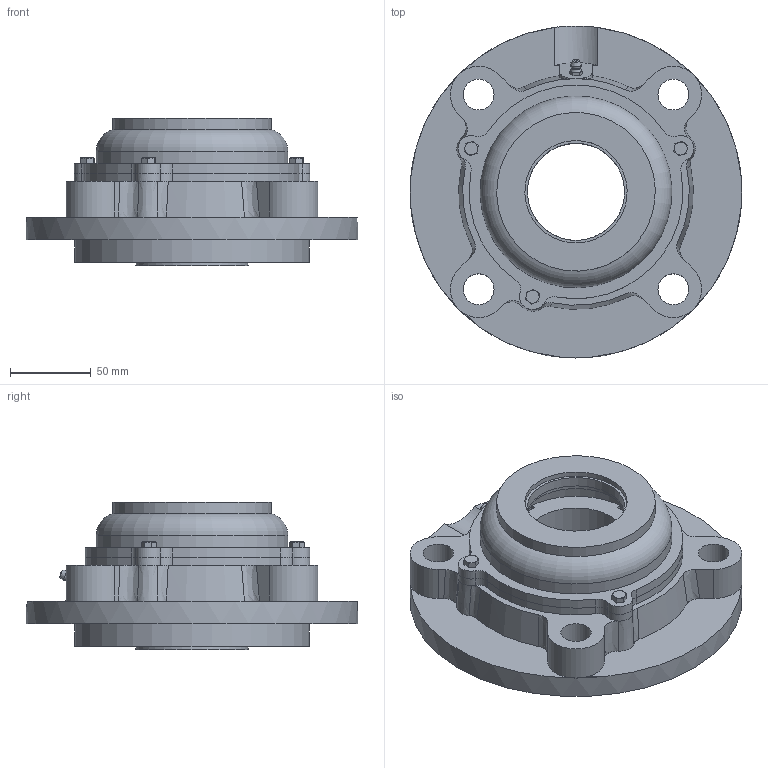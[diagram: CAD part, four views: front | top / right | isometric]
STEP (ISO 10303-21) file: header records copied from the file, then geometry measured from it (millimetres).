
FILE_DESCRIPTION((''),'2;1');
FILE_NAME('\\Ts-tgl068\j-cad-d-base\00.3DCADデータ作成フォルダ\02.フランジ形\CUKFC200\CUKFC213C+H.stp','2014-05-22T08:55:28',('btec_1106_2'),(''),'Autodesk Inventor 2012','Autodesk Inventor 2012','');
FILE_SCHEMA(('AUTOMOTIVE_DESIGN { 1 0 10303 214 1 1 1 1 }'));
Length unit declared in the file: millimetre
Products named in the file (7): CUKFC200C+H; CFC213; UK213; GU1; 213C60R; 213C60; M5X0
Assembly tree (8 placements, depth 3):
  CUKFC200C+H
    CFC213
    UK213
    GU1
    213C60R
      213C60
      M5X0  x3
Bounding box: 205 x 205 x 91 mm (x, y, z)
Volume: 980420.3 mm3; surface area: 202216 mm2
Topology: 7 solids, 7 shells, 326 faces, 803 edges, 509 vertices
Faces by surface type: plane 126, cylinder 97, cone 81, bspline 14, sphere 4, torus 4
Full cylindrical faces by diameter (mm): 4.134 x3, 5 x3, 5.359 x1, 6 x3, 6.35 x1, 19 x4, 60 x2, 63.2 x2, 65 x1, 82.1 x2, 98 x1, 118 x1, 118.5 x1, 122 x2, 145 x1, 205 x1
Entity records: 9199 total; most frequent: CARTESIAN_POINT 2473, DIRECTION 1367, ORIENTED_EDGE 1344, EDGE_CURVE 672, AXIS2_PLACEMENT_3D 574, VERTEX_POINT 446, EDGE_LOOP 374, FACE_OUTER_BOUND 292
